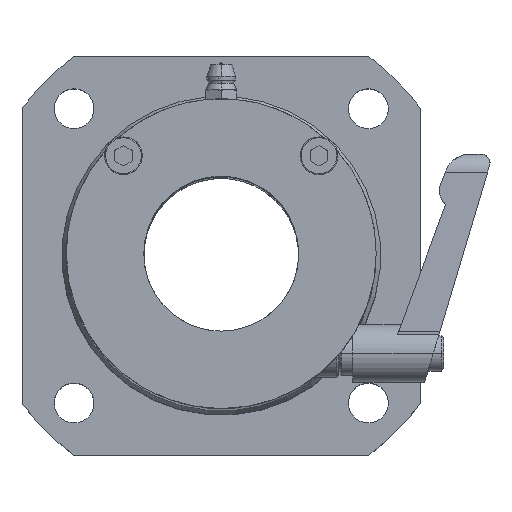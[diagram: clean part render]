
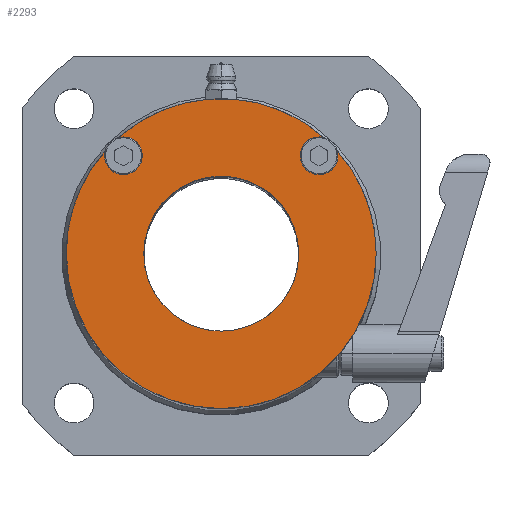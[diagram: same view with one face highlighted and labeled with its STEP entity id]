
A CAD part, top view. The second image highlights one B-rep face of the part: STEP entity #2293.
In plain terms, the highlighted planar face has unit normal (0, 0, 1).
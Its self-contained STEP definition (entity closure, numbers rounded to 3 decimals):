
#171 = DIRECTION ( 'NONE',  ( 1., 0., 0. ) ) ;
#336 = DIRECTION ( 'NONE',  ( 1., 0., 0. ) ) ;
#341 = CIRCLE ( 'NONE', #1808, 4.25 ) ;
#404 = CARTESIAN_POINT ( 'NONE',  ( 15.293, 21.2, 90. ) ) ;
#485 = CIRCLE ( 'NONE', #10563, 4.25 ) ;
#823 = ORIENTED_EDGE ( 'NONE', *, *, #1797, .F. ) ;
#905 = PLANE ( 'NONE',  #7636 ) ;
#907 = CIRCLE ( 'NONE', #2032, 4.25 ) ;
#1027 = EDGE_LOOP ( 'NONE', ( #2347, #3109 ) ) ;
#1115 = ORIENTED_EDGE ( 'NONE', *, *, #10598, .F. ) ;
#1176 = DIRECTION ( 'NONE',  ( 1., 0., 0. ) ) ;
#1344 = DIRECTION ( 'NONE',  ( 1., 0., 0. ) ) ;
#1797 = EDGE_CURVE ( 'NONE', #2605, #7879, #485, .T. ) ;
#1808 = AXIS2_PLACEMENT_3D ( 'NONE', #3083, #11036, #10073 ) ;
#1852 = AXIS2_PLACEMENT_3D ( 'NONE', #5661, #6627, #3059 ) ;
#1906 = EDGE_CURVE ( 'NONE', #7102, #8427, #10939, .T. ) ;
#1945 = CARTESIAN_POINT ( 'NONE',  ( -2.557, -0.9, 90. ) ) ;
#2030 = AXIS2_PLACEMENT_3D ( 'NONE', #2785, #3635, #336 ) ;
#2032 = AXIS2_PLACEMENT_3D ( 'NONE', #9961, #8108, #171 ) ;
#2034 = AXIS2_PLACEMENT_3D ( 'NONE', #8101, #6316, #9837 ) ;
#2144 = ORIENTED_EDGE ( 'NONE', *, *, #10611, .F. ) ;
#2293 = ADVANCED_FACE ( 'NONE', ( #2791, #2626 ), #905, .T. ) ;
#2347 = ORIENTED_EDGE ( 'NONE', *, *, #3764, .F. ) ;
#2366 = DIRECTION ( 'NONE',  ( 0., 0., 1. ) ) ;
#2464 = EDGE_CURVE ( 'NONE', #6548, #6514, #2857, .T. ) ;
#2605 = VERTEX_POINT ( 'NONE', #6292 ) ;
#2623 = CIRCLE ( 'NONE', #9443, 4.25 ) ;
#2626 = FACE_BOUND ( 'NONE', #1027, .T. ) ;
#2711 = CARTESIAN_POINT ( 'NONE',  ( -28.907, 21.2, 90. ) ) ;
#2785 = CARTESIAN_POINT ( 'NONE',  ( -2.557, -0.9, 90. ) ) ;
#2791 = FACE_OUTER_BOUND ( 'NONE', #9208, .T. ) ;
#2801 = CARTESIAN_POINT ( 'NONE',  ( -28.762, 22.302, 90. ) ) ;
#2857 = CIRCLE ( 'NONE', #10594, 35. ) ;
#3059 = DIRECTION ( 'NONE',  ( 1., 0., 0. ) ) ;
#3083 = CARTESIAN_POINT ( 'NONE',  ( 19.543, 21.2, 90. ) ) ;
#3109 = ORIENTED_EDGE ( 'NONE', *, *, #6041, .F. ) ;
#3193 = CIRCLE ( 'NONE', #5780, 35. ) ;
#3238 = VERTEX_POINT ( 'NONE', #2711 ) ;
#3333 = DIRECTION ( 'NONE',  ( 0., 0., 1. ) ) ;
#3557 = ORIENTED_EDGE ( 'NONE', *, *, #9400, .F. ) ;
#3635 = DIRECTION ( 'NONE',  ( 0., 0., 1. ) ) ;
#3675 = VERTEX_POINT ( 'NONE', #9439 ) ;
#3764 = EDGE_CURVE ( 'NONE', #6307, #4837, #4999, .T. ) ;
#3798 = ORIENTED_EDGE ( 'NONE', *, *, #11326, .T. ) ;
#3929 = CARTESIAN_POINT ( 'NONE',  ( -2.557, -0.9, 90. ) ) ;
#4048 = CARTESIAN_POINT ( 'NONE',  ( 19.543, 21.2, 90. ) ) ;
#4079 = CARTESIAN_POINT ( 'NONE',  ( -25.759, 25.305, 90. ) ) ;
#4218 = DIRECTION ( 'NONE',  ( 1., 0., 0. ) ) ;
#4254 = CARTESIAN_POINT ( 'NONE',  ( -24.657, 21.2, 90. ) ) ;
#4837 = VERTEX_POINT ( 'NONE', #8574 ) ;
#4999 = CIRCLE ( 'NONE', #2034, 17.5 ) ;
#5064 = AXIS2_PLACEMENT_3D ( 'NONE', #8519, #3333, #7774 ) ;
#5233 = DIRECTION ( 'NONE',  ( 1., 0., 0. ) ) ;
#5295 = ORIENTED_EDGE ( 'NONE', *, *, #2464, .T. ) ;
#5567 = CARTESIAN_POINT ( 'NONE',  ( -24.657, 21.2, 90. ) ) ;
#5660 = DIRECTION ( 'NONE',  ( 0., 0., 1. ) ) ;
#5661 = CARTESIAN_POINT ( 'NONE',  ( -24.657, 21.2, 90. ) ) ;
#5780 = AXIS2_PLACEMENT_3D ( 'NONE', #6689, #6631, #4218 ) ;
#5805 = CARTESIAN_POINT ( 'NONE',  ( 20.644, 25.305, 90. ) ) ;
#5807 = EDGE_CURVE ( 'NONE', #7102, #3238, #2623, .T. ) ;
#6041 = EDGE_CURVE ( 'NONE', #4837, #6307, #8166, .T. ) ;
#6122 = CARTESIAN_POINT ( 'NONE',  ( -2.557, -0.9, 90. ) ) ;
#6292 = CARTESIAN_POINT ( 'NONE',  ( -20.407, 21.2, 90. ) ) ;
#6307 = VERTEX_POINT ( 'NONE', #10260 ) ;
#6316 = DIRECTION ( 'NONE',  ( 0., 0., 1. ) ) ;
#6514 = VERTEX_POINT ( 'NONE', #8298 ) ;
#6548 = VERTEX_POINT ( 'NONE', #11040 ) ;
#6627 = DIRECTION ( 'NONE',  ( 0., 0., 1. ) ) ;
#6631 = DIRECTION ( 'NONE',  ( 0., 0., 1. ) ) ;
#6689 = CARTESIAN_POINT ( 'NONE',  ( -2.557, -0.9, 90. ) ) ;
#6781 = DIRECTION ( 'NONE',  ( 1., 0., 0. ) ) ;
#6898 = ORIENTED_EDGE ( 'NONE', *, *, #5807, .F. ) ;
#6979 = VERTEX_POINT ( 'NONE', #5805 ) ;
#7102 = VERTEX_POINT ( 'NONE', #2801 ) ;
#7528 = EDGE_CURVE ( 'NONE', #8427, #6548, #3193, .T. ) ;
#7636 = AXIS2_PLACEMENT_3D ( 'NONE', #1945, #9608, #5233 ) ;
#7724 = CIRCLE ( 'NONE', #1852, 4.25 ) ;
#7727 = DIRECTION ( 'NONE',  ( 0., 0., 1. ) ) ;
#7774 = DIRECTION ( 'NONE',  ( 1., 0., 0. ) ) ;
#7879 = VERTEX_POINT ( 'NONE', #4079 ) ;
#8101 = CARTESIAN_POINT ( 'NONE',  ( -2.557, -0.9, 90. ) ) ;
#8108 = DIRECTION ( 'NONE',  ( 0., 0., 1. ) ) ;
#8166 = CIRCLE ( 'NONE', #10737, 17.5 ) ;
#8298 = CARTESIAN_POINT ( 'NONE',  ( 23.648, 22.302, 90. ) ) ;
#8331 = DIRECTION ( 'NONE',  ( 0., 0., 1. ) ) ;
#8427 = VERTEX_POINT ( 'NONE', #11178 ) ;
#8519 = CARTESIAN_POINT ( 'NONE',  ( -2.557, -0.9, 90. ) ) ;
#8574 = CARTESIAN_POINT ( 'NONE',  ( 14.943, -0.9, 90. ) ) ;
#8591 = DIRECTION ( 'NONE',  ( 1., 0., 0. ) ) ;
#8719 = ORIENTED_EDGE ( 'NONE', *, *, #1906, .T. ) ;
#8884 = ORIENTED_EDGE ( 'NONE', *, *, #10297, .F. ) ;
#9208 = EDGE_LOOP ( 'NONE', ( #8719, #10526, #5295, #8884, #2144, #3557, #3798, #823, #1115, #6898 ) ) ;
#9238 = DIRECTION ( 'NONE',  ( 0., 0., 1. ) ) ;
#9250 = DIRECTION ( 'NONE',  ( 1., 0., 0. ) ) ;
#9400 = EDGE_CURVE ( 'NONE', #6979, #10288, #341, .T. ) ;
#9439 = CARTESIAN_POINT ( 'NONE',  ( 23.793, 21.2, 90. ) ) ;
#9443 = AXIS2_PLACEMENT_3D ( 'NONE', #5567, #8331, #9250 ) ;
#9557 = CIRCLE ( 'NONE', #2030, 35. ) ;
#9608 = DIRECTION ( 'NONE',  ( 0., 0., 1. ) ) ;
#9756 = CIRCLE ( 'NONE', #11031, 4.25 ) ;
#9837 = DIRECTION ( 'NONE',  ( 1., 0., 0. ) ) ;
#9961 = CARTESIAN_POINT ( 'NONE',  ( 19.543, 21.2, 90. ) ) ;
#10073 = DIRECTION ( 'NONE',  ( 1., 0., 0. ) ) ;
#10260 = CARTESIAN_POINT ( 'NONE',  ( -20.057, -0.9, 90. ) ) ;
#10288 = VERTEX_POINT ( 'NONE', #404 ) ;
#10297 = EDGE_CURVE ( 'NONE', #3675, #6514, #907, .T. ) ;
#10526 = ORIENTED_EDGE ( 'NONE', *, *, #7528, .T. ) ;
#10563 = AXIS2_PLACEMENT_3D ( 'NONE', #4254, #2366, #6781 ) ;
#10594 = AXIS2_PLACEMENT_3D ( 'NONE', #6122, #7727, #8591 ) ;
#10598 = EDGE_CURVE ( 'NONE', #3238, #2605, #7724, .T. ) ;
#10611 = EDGE_CURVE ( 'NONE', #10288, #3675, #9756, .T. ) ;
#10737 = AXIS2_PLACEMENT_3D ( 'NONE', #3929, #5660, #1176 ) ;
#10939 = CIRCLE ( 'NONE', #5064, 35. ) ;
#11031 = AXIS2_PLACEMENT_3D ( 'NONE', #4048, #9238, #1344 ) ;
#11036 = DIRECTION ( 'NONE',  ( 0., 0., 1. ) ) ;
#11040 = CARTESIAN_POINT ( 'NONE',  ( 32.443, -0.9, 90. ) ) ;
#11178 = CARTESIAN_POINT ( 'NONE',  ( -37.557, -0.9, 90. ) ) ;
#11326 = EDGE_CURVE ( 'NONE', #6979, #7879, #9557, .T. ) ;
